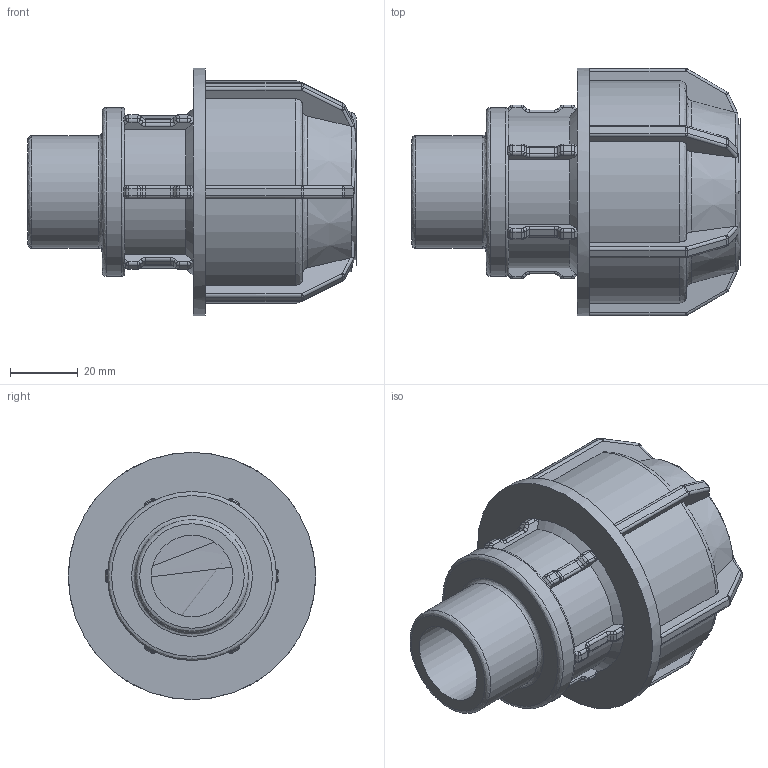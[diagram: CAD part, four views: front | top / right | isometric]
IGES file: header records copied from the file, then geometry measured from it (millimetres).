
Global section: file name: 140200040010.ipt; native system: Autodesk Inventor 2015; preprocessor: unknown; author: KIM; date: 20180409.130936; units: millimetre
Bounding box: 97 x 73 x 73 mm (x, y, z)
Volume: 110705.4 mm3; surface area: 36239.1 mm2
Topology: 1 solids, 1 shells, 470 faces, 1168 edges, 700 vertices
Faces by surface type: cylinder 171, plane 158, revolution 129, cone 12
Full cylindrical faces by diameter (mm): 33.249 x1, 49.873 x1, 73 x1
